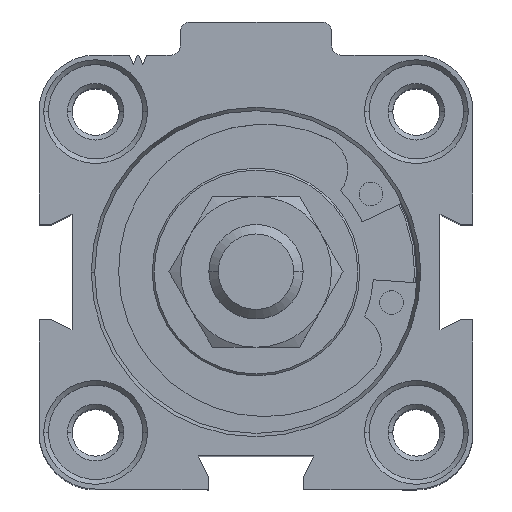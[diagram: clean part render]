
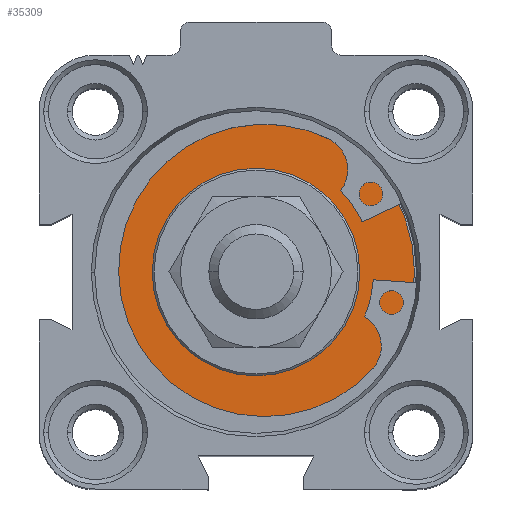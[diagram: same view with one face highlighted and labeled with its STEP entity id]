
A CAD part, top view. The second image highlights one B-rep face of the part: STEP entity #35309.
In plain terms, the highlighted planar face has unit normal (0, 0, 1).
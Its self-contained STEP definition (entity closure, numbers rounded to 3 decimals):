
#1215 = ORIENTED_EDGE ( 'NONE', *, *, #21750, .F. ) ;
#2398 = VERTEX_POINT ( 'NONE', #36796 ) ;
#2785 = CIRCLE ( 'NONE', #2950, 16.8 ) ;
#2950 = AXIS2_PLACEMENT_3D ( 'NONE', #33703, #43435, #14754 ) ;
#3576 = PLANE ( 'NONE',  #38047 ) ;
#4184 = CARTESIAN_POINT ( 'NONE',  ( 0., 0., 40.875 ) ) ;
#5785 = CARTESIAN_POINT ( 'NONE',  ( 0., 0., 40.875 ) ) ;
#6427 = DIRECTION ( 'NONE',  ( 0., 0., 1. ) ) ;
#7029 = EDGE_CURVE ( 'NONE', #2398, #11146, #2785, .T. ) ;
#10941 = AXIS2_PLACEMENT_3D ( 'NONE', #29601, #11184, #39850 ) ;
#11146 = VERTEX_POINT ( 'NONE', #19225 ) ;
#11184 = DIRECTION ( 'NONE',  ( 0., 0., 1. ) ) ;
#11842 = ORIENTED_EDGE ( 'NONE', *, *, #7029, .F. ) ;
#12690 = ORIENTED_EDGE ( 'NONE', *, *, #12940, .F. ) ;
#12940 = EDGE_CURVE ( 'NONE', #11146, #2398, #22216, .T. ) ;
#14754 = DIRECTION ( 'NONE',  ( -0.94, 0.342, 0. ) ) ;
#15962 = VERTEX_POINT ( 'NONE', #43241 ) ;
#19023 = DIRECTION ( 'NONE',  ( -0.94, 0.342, 0. ) ) ;
#19225 = CARTESIAN_POINT ( 'NONE',  ( -15.786, 5.747, 40.875 ) ) ;
#20985 = EDGE_LOOP ( 'NONE', ( #12690, #11842 ) ) ;
#21514 = DIRECTION ( 'NONE',  ( 0., 0., -1. ) ) ;
#21750 = EDGE_CURVE ( 'NONE', #42369, #15962, #28740, .T. ) ;
#22216 = CIRCLE ( 'NONE', #32177, 16.8 ) ;
#24693 = CIRCLE ( 'NONE', #10941, 11. ) ;
#26179 = AXIS2_PLACEMENT_3D ( 'NONE', #38973, #6427, #45999 ) ;
#28740 = CIRCLE ( 'NONE', #26179, 11. ) ;
#29005 = DIRECTION ( 'NONE',  ( -0.94, 0.342, 0. ) ) ;
#29601 = CARTESIAN_POINT ( 'NONE',  ( 0., 0., 40.875 ) ) ;
#30134 = ORIENTED_EDGE ( 'NONE', *, *, #42310, .F. ) ;
#32177 = AXIS2_PLACEMENT_3D ( 'NONE', #5785, #40526, #19023 ) ;
#33703 = CARTESIAN_POINT ( 'NONE',  ( 0., 0., 40.875 ) ) ;
#35224 = EDGE_LOOP ( 'NONE', ( #1215, #30134 ) ) ;
#35309 = ADVANCED_FACE ( 'NONE', ( #36353, #37478 ), #3576, .F. ) ;
#36353 = FACE_BOUND ( 'NONE', #35224, .T. ) ;
#36395 = CARTESIAN_POINT ( 'NONE',  ( -10.336, 3.763, 40.875 ) ) ;
#36796 = CARTESIAN_POINT ( 'NONE',  ( 15.786, -5.747, 40.875 ) ) ;
#37478 = FACE_OUTER_BOUND ( 'NONE', #20985, .T. ) ;
#38047 = AXIS2_PLACEMENT_3D ( 'NONE', #4184, #21514, #29005 ) ;
#38973 = CARTESIAN_POINT ( 'NONE',  ( 0., 0., 40.875 ) ) ;
#39850 = DIRECTION ( 'NONE',  ( -0.94, 0.342, 0. ) ) ;
#40526 = DIRECTION ( 'NONE',  ( 0., 0., -1. ) ) ;
#42310 = EDGE_CURVE ( 'NONE', #15962, #42369, #24693, .T. ) ;
#42369 = VERTEX_POINT ( 'NONE', #36395 ) ;
#43241 = CARTESIAN_POINT ( 'NONE',  ( 10.336, -3.763, 40.875 ) ) ;
#43435 = DIRECTION ( 'NONE',  ( 0., 0., -1. ) ) ;
#45999 = DIRECTION ( 'NONE',  ( -0.94, 0.342, 0. ) ) ;
